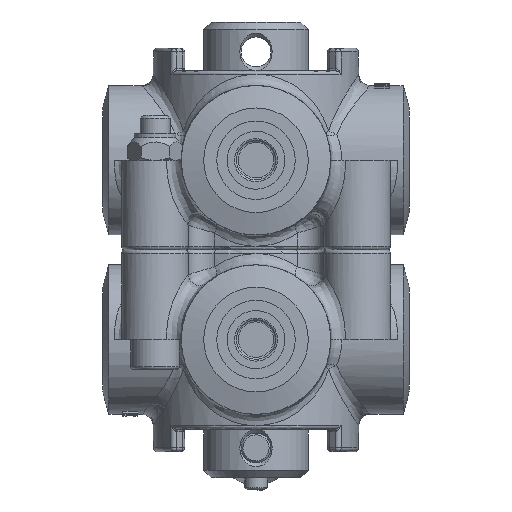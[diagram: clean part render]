
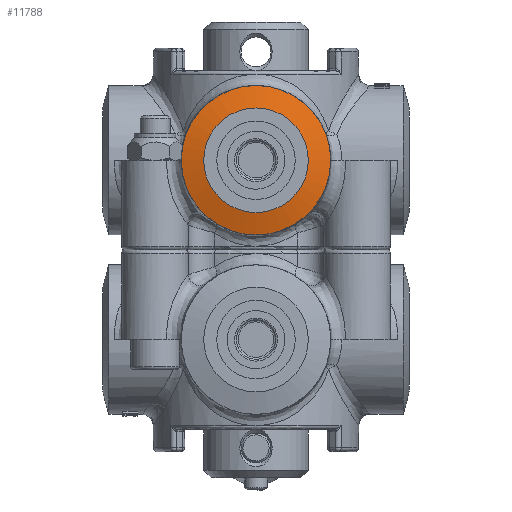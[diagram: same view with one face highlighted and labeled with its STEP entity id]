
A CAD part, left-side view. The second image highlights one B-rep face of the part: STEP entity #11788.
In plain terms, the highlighted conical face has half-angle 75 degrees and reference radius 17 mm.
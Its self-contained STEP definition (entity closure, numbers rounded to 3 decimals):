
#7588=CARTESIAN_POINT('',(-39.392,20.,48.));
#7589=VERTEX_POINT('',#7588);
#7590=CARTESIAN_POINT('',(-39.392,0.,48.));
#7591=DIRECTION('',(-1.0,0.0,0.0));
#7592=DIRECTION('',(0.0,-1.0,0.0));
#7593=AXIS2_PLACEMENT_3D('',#7590,#7591,#7592);
#7594=CIRCLE('',#7593,20.0);
#7595=EDGE_CURVE('',#7589,#7589,#7594,.T.);
#11769=CARTESIAN_POINT('',(-40.196,0.,48.));
#11770=DIRECTION('',(1.0,0.,0.));
#11771=DIRECTION('',(0.0,-1.0,0.0));
#11772=AXIS2_PLACEMENT_3D('',#11769,#11770,#11771);
#11773=CONICAL_SURFACE('',#11772,17.0,75.);
#11774=CARTESIAN_POINT('',(-41.,14.,48.));
#11775=VERTEX_POINT('',#11774);
#11776=CARTESIAN_POINT('',(-41.,0.,48.));
#11777=DIRECTION('',(1.0,0.0,0.0));
#11778=DIRECTION('',(0.0,-1.0,0.0));
#11779=AXIS2_PLACEMENT_3D('',#11776,#11777,#11778);
#11780=CIRCLE('',#11779,14.0);
#11781=EDGE_CURVE('',#11775,#11775,#11780,.T.);
#11782=ORIENTED_EDGE('',*,*,#11781,.T.);
#11783=EDGE_LOOP('',(#11782));
#11784=FACE_OUTER_BOUND('',#11783,.T.);
#11785=ORIENTED_EDGE('',*,*,#7595,.T.);
#11786=EDGE_LOOP('',(#11785));
#11787=FACE_BOUND('',#11786,.T.);
#11788=ADVANCED_FACE('',(#11784,#11787),#11773,.T.);
